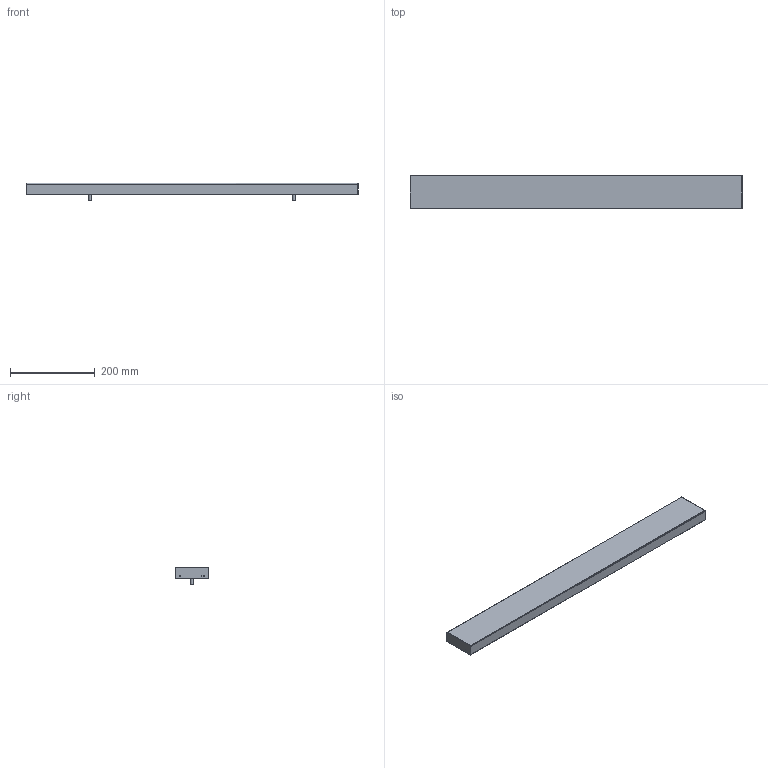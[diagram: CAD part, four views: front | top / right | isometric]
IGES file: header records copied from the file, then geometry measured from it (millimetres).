
Start section: SolidWorks IGES file using NURBS representation for surfaces
Global section: file name: Z:\Modele 3D_WWW\_CAMELEON\PUSZKI WWW\CAMELEON-CANOPY_B_780_8562_8561\CANOPY_B_780_8562_8561.IGS; native system: SolidWorks 2021; preprocessor: SolidWorks 2021; author: gabriela.tworek; date: 220225.151833; units: millimetre
Bounding box: 781.6 x 80 x 41.7 mm (x, y, z)
Surface area: 363249.8 mm2 (no closed solid volume)
Topology: 0 solids, 0 shells, 104 faces, 436 edges, 432 vertices
Faces by surface type: bspline 104
